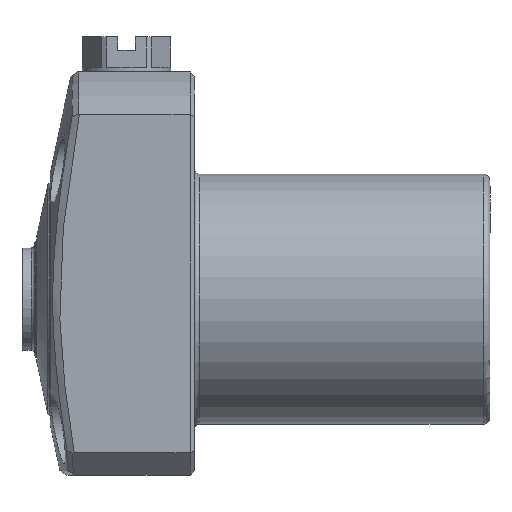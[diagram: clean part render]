
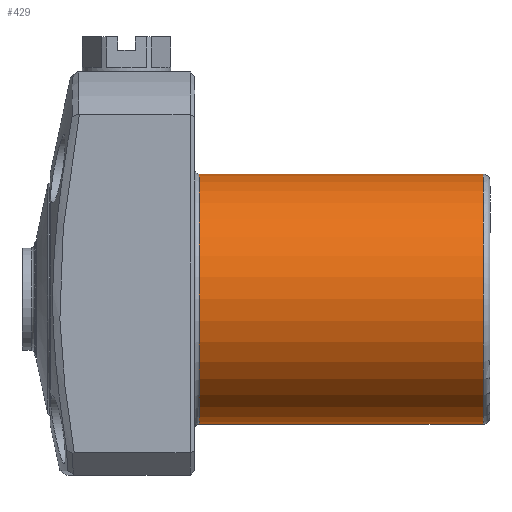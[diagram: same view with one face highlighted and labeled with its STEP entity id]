
A CAD part, left-side view. The second image highlights one B-rep face of the part: STEP entity #429.
In plain terms, the highlighted cylindrical face has radius 11 mm (diameter 22 mm), a partial arc.
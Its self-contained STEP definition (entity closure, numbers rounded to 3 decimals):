
#429=ADVANCED_FACE('',(#635),#528,.T.);
#528=CYLINDRICAL_SURFACE('',#2923,11.);
#635=FACE_OUTER_BOUND('',#806,.T.);
#806=EDGE_LOOP('',(#1632,#1633,#1634,#1635));
#968=LINE('',#4497,#1110);
#969=LINE('',#4498,#1111);
#1110=VECTOR('',#3433,1.);
#1111=VECTOR('',#3434,1.);
#1632=ORIENTED_EDGE('',*,*,#2321,.T.);
#1633=ORIENTED_EDGE('',*,*,#2272,.T.);
#1634=ORIENTED_EDGE('',*,*,#2322,.F.);
#1635=ORIENTED_EDGE('',*,*,#2428,.T.);
#2005=VERTEX_POINT('',#4324);
#2006=VERTEX_POINT('',#4325);
#2009=VERTEX_POINT('',#4333);
#2010=VERTEX_POINT('',#4334);
#2272=EDGE_CURVE('',#2005,#2006,#2558,.T.);
#2321=EDGE_CURVE('',#2009,#2005,#968,.T.);
#2322=EDGE_CURVE('',#2010,#2006,#969,.T.);
#2428=EDGE_CURVE('',#2010,#2009,#2642,.T.);
#2558=CIRCLE('',#2793,11.);
#2642=CIRCLE('',#2922,11.);
#2793=AXIS2_PLACEMENT_3D('',#4323,#3333,#3334);
#2922=AXIS2_PLACEMENT_3D('',#4946,#3646,#3647);
#2923=AXIS2_PLACEMENT_3D('',#4947,#3648,#3649);
#3333=DIRECTION('',(0.,-1.,0.));
#3334=DIRECTION('',(0.,0.,-1.));
#3433=DIRECTION('',(0.,1.,0.));
#3434=DIRECTION('',(0.,1.,0.));
#3646=DIRECTION('',(0.,1.,0.));
#3647=DIRECTION('',(0.,0.,-1.));
#3648=DIRECTION('',(0.,-1.,0.));
#3649=DIRECTION('',(0.,0.,1.));
#4323=CARTESIAN_POINT('',(0.,25.6,0.));
#4324=CARTESIAN_POINT('',(0.,25.6,11.));
#4325=CARTESIAN_POINT('',(0.,25.6,-11.));
#4333=CARTESIAN_POINT('',(0.,0.6,11.));
#4334=CARTESIAN_POINT('',(0.,0.6,-11.));
#4497=CARTESIAN_POINT('',(0.,0.1,11.));
#4498=CARTESIAN_POINT('',(0.,0.1,-11.));
#4946=CARTESIAN_POINT('',(0.,0.6,0.));
#4947=CARTESIAN_POINT('',(0.,0.1,0.));
